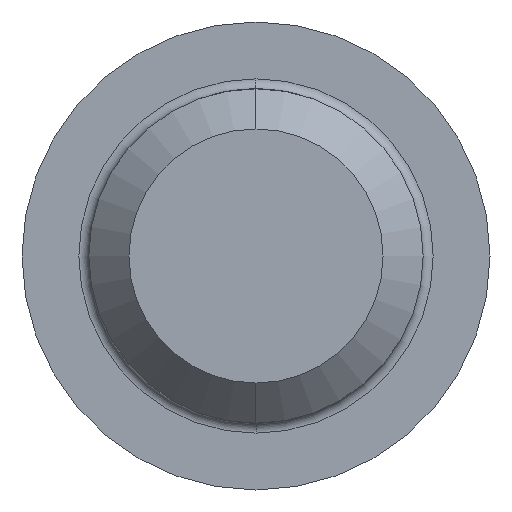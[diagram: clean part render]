
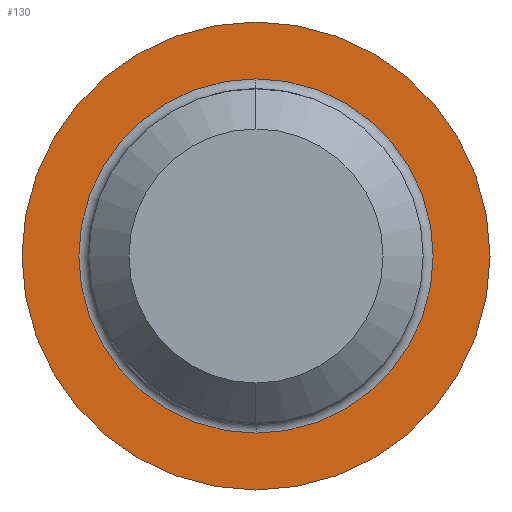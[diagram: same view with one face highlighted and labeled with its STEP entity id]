
A CAD part, left-side view. The second image highlights one B-rep face of the part: STEP entity #130.
In plain terms, the highlighted planar face has unit normal (-1, 0, 0).
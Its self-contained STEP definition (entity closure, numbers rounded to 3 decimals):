
#20 = VERTEX_POINT ( 'NONE', #171 ) ;
#35 = VERTEX_POINT ( 'NONE', #244 ) ;
#48 = VERTEX_POINT ( 'NONE', #246 ) ;
#49 = EDGE_CURVE ( 'NONE', #48, #53, #310, .T. ) ;
#53 = VERTEX_POINT ( 'NONE', #308 ) ;
#58 = EDGE_CURVE ( 'NONE', #35, #20, #274, .T. ) ;
#94 = EDGE_CURVE ( 'NONE', #53, #48, #454, .T. ) ;
#95 = EDGE_CURVE ( 'NONE', #20, #35, #446, .T. ) ;
#127 = ORIENTED_EDGE ( 'NONE', *, *, #95, .T. ) ;
#130 = ADVANCED_FACE ( 'NONE', ( #449, #447 ), #492, .F. ) ;
#131 = ORIENTED_EDGE ( 'NONE', *, *, #58, .T. ) ;
#171 = CARTESIAN_POINT ( 'NONE',  ( 0., 0., -7. ) ) ;
#183 = ORIENTED_EDGE ( 'NONE', *, *, #94, .T. ) ;
#200 = ORIENTED_EDGE ( 'NONE', *, *, #49, .T. ) ;
#206 = EDGE_LOOP ( 'NONE', ( #131, #127 ) ) ;
#244 = CARTESIAN_POINT ( 'NONE',  ( 0., 0., 7. ) ) ;
#246 = CARTESIAN_POINT ( 'NONE',  ( 0., 0., 5.3 ) ) ;
#259 = EDGE_LOOP ( 'NONE', ( #183, #200 ) ) ;
#270 = DIRECTION ( 'NONE',  ( 0., 0., 1. ) ) ;
#271 = DIRECTION ( 'NONE',  ( -1., 0., 0. ) ) ;
#273 = CARTESIAN_POINT ( 'NONE',  ( 0., 0., 0. ) ) ;
#274 = CIRCLE ( 'NONE', #278, 7. ) ;
#278 = AXIS2_PLACEMENT_3D ( 'NONE', #273, #271, #270 ) ;
#284 = DIRECTION ( 'NONE',  ( 0., 0., -1. ) ) ;
#285 = DIRECTION ( 'NONE',  ( 1., 0., 0. ) ) ;
#286 = CARTESIAN_POINT ( 'NONE',  ( 0., 0., 0. ) ) ;
#287 = AXIS2_PLACEMENT_3D ( 'NONE', #286, #285, #284 ) ;
#308 = CARTESIAN_POINT ( 'NONE',  ( 0., 0., -5.3 ) ) ;
#310 = CIRCLE ( 'NONE', #287, 5.3 ) ;
#316 = DIRECTION ( 'NONE',  ( 0., 0., -1. ) ) ;
#444 = DIRECTION ( 'NONE',  ( 0., 0., 1. ) ) ;
#445 = AXIS2_PLACEMENT_3D ( 'NONE', #458, #490, #444 ) ;
#446 = CIRCLE ( 'NONE', #445, 7. ) ;
#447 = FACE_OUTER_BOUND ( 'NONE', #206, .T. ) ;
#449 = FACE_BOUND ( 'NONE', #259, .T. ) ;
#450 = DIRECTION ( 'NONE',  ( 0., 0., -1. ) ) ;
#451 = DIRECTION ( 'NONE',  ( 1., 0., 0. ) ) ;
#452 = CARTESIAN_POINT ( 'NONE',  ( 0., 0., 0. ) ) ;
#453 = AXIS2_PLACEMENT_3D ( 'NONE', #452, #451, #450 ) ;
#454 = CIRCLE ( 'NONE', #453, 5.3 ) ;
#456 = DIRECTION ( 'NONE',  ( 1., 0., 0. ) ) ;
#457 = CARTESIAN_POINT ( 'NONE',  ( 0., 7., 0. ) ) ;
#458 = CARTESIAN_POINT ( 'NONE',  ( 0., 0., 0. ) ) ;
#490 = DIRECTION ( 'NONE',  ( -1., 0., 0. ) ) ;
#491 = AXIS2_PLACEMENT_3D ( 'NONE', #457, #456, #316 ) ;
#492 = PLANE ( 'NONE',  #491 ) ;
